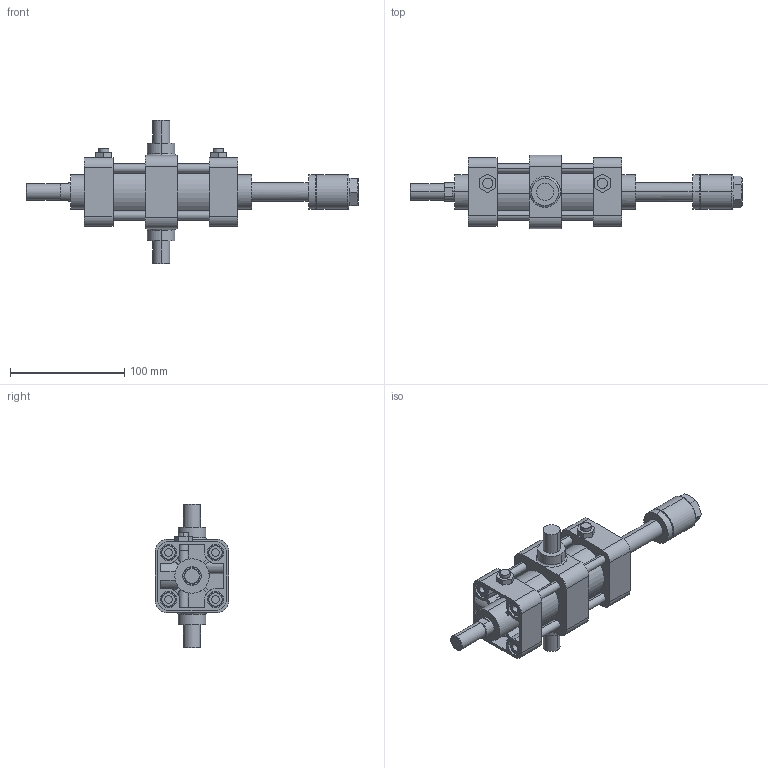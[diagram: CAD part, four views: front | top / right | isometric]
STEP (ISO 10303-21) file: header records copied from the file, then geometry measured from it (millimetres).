
FILE_DESCRIPTION (( 'STEP AP203' ), '1' );
FILE_NAME ('KGA7-40#-50-T.STEP', '2016-04-14T07:48:52', ( '' ), ( '' ), 'SwSTEP 2.0', 'SolidWorks 2014', '' );
FILE_SCHEMA (( 'CONFIG_CONTROL_DESIGN' ));
Length unit declared in the file: millimetre
Products named in the file (9): KGA7-40-Turn; K#7-40-50-After; K-40-T; KGLH2-40-50; KGA7-40#-50-T
Assembly tree (18 placements, depth 2):
  KGA7-40#-50-T
    K#7-40-50-After
    KGLH2-40-50
    (unnamed)
    (unnamed)  x4
    (unnamed)  x8
    K-40-T
    KGA7-40-Turn
    (unnamed)
Bounding box: 290 x 64 x 125 mm (x, y, z)
Volume: 424045.9 mm3; surface area: 118304.9 mm2
Topology: 18 solids, 23 shells, 417 faces, 955 edges, 607 vertices
Faces by surface type: plane 171, cylinder 168, torus 46, cone 28, bspline 4
Entity records: 11772 total; most frequent: CARTESIAN_POINT 2897, DIRECTION 1673, ORIENTED_EDGE 1530, EDGE_CURVE 765, AXIS2_PLACEMENT_3D 646, VERTEX_POINT 497, LINE 381, VECTOR 381
